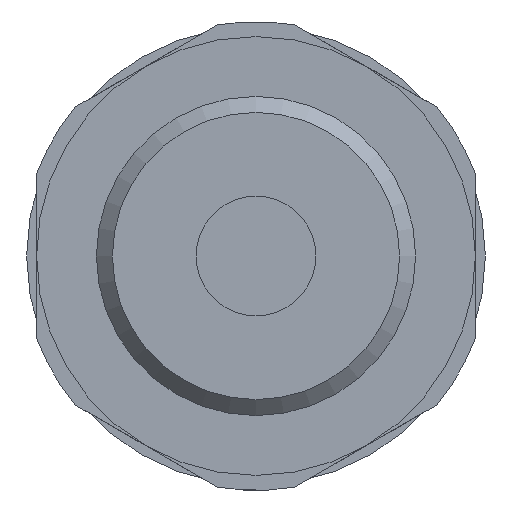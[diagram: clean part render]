
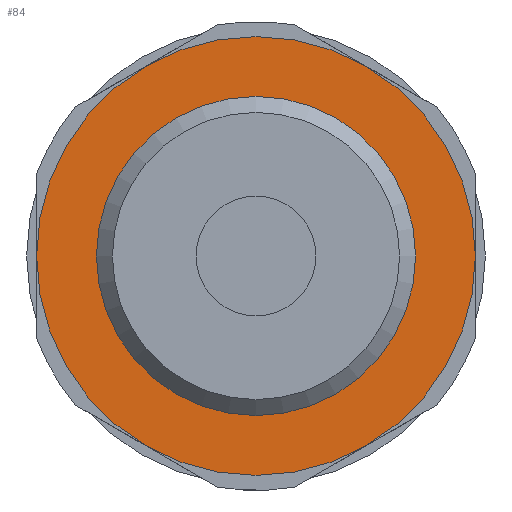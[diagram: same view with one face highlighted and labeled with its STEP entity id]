
A CAD part, front view. The second image highlights one B-rep face of the part: STEP entity #84.
In plain terms, the highlighted planar face has unit normal (0, -1, 0).
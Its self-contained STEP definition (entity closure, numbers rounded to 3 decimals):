
#84 = ADVANCED_FACE( '', ( #132, #133 ), #134, .F. );
#132 = FACE_BOUND( '', #220, .T. );
#133 = FACE_OUTER_BOUND( '', #221, .T. );
#134 = PLANE( '', #222 );
#220 = EDGE_LOOP( '', ( #338 ) );
#221 = EDGE_LOOP( '', ( #339 ) );
#222 = AXIS2_PLACEMENT_3D( '', #340, #341, #342 );
#338 = ORIENTED_EDGE( '', *, *, #520, .F. );
#339 = ORIENTED_EDGE( '', *, *, #521, .T. );
#340 = CARTESIAN_POINT( '', ( 11., 0., 0. ) );
#341 = DIRECTION( '', ( 0., 1., 0. ) );
#342 = DIRECTION( '', ( 0., 0., 1. ) );
#520 = EDGE_CURVE( '', #596, #596, #597, .T. );
#521 = EDGE_CURVE( '', #598, #598, #599, .T. );
#596 = VERTEX_POINT( '', #725 );
#597 = CIRCLE( '', #726, 8. );
#598 = VERTEX_POINT( '', #727 );
#599 = CIRCLE( '', #728, 11. );
#725 = CARTESIAN_POINT( '', ( 0., 0., -8. ) );
#726 = AXIS2_PLACEMENT_3D( '', #824, #825, #826 );
#727 = CARTESIAN_POINT( '', ( 0., 0., -11. ) );
#728 = AXIS2_PLACEMENT_3D( '', #827, #828, #829 );
#824 = CARTESIAN_POINT( '', ( 0., 0., 0. ) );
#825 = DIRECTION( '', ( 0., -1., 0. ) );
#826 = DIRECTION( '', ( 0., 0., -1. ) );
#827 = CARTESIAN_POINT( '', ( 0., 0., 0. ) );
#828 = DIRECTION( '', ( 0., -1., 0. ) );
#829 = DIRECTION( '', ( 0., 0., -1. ) );
